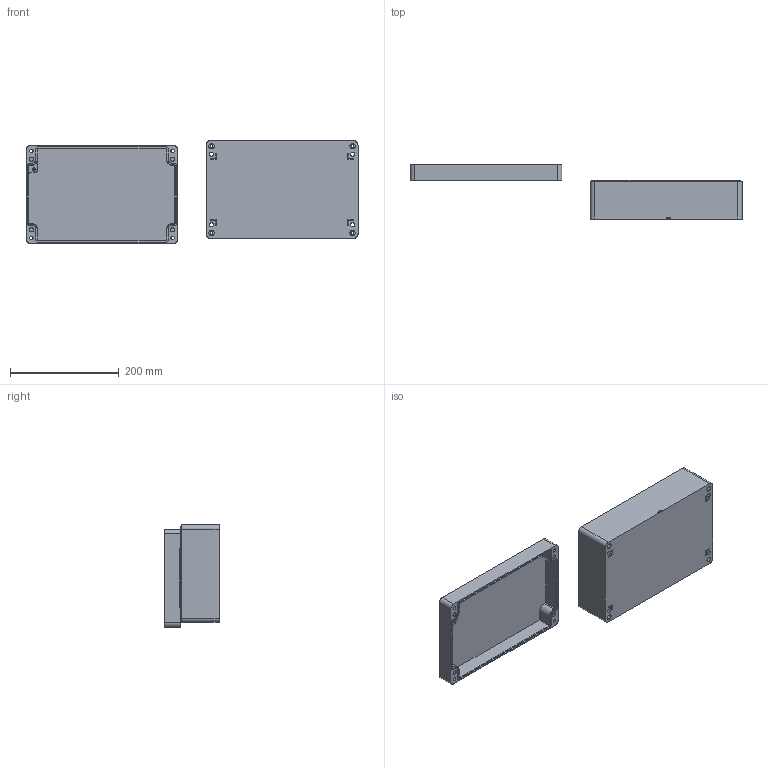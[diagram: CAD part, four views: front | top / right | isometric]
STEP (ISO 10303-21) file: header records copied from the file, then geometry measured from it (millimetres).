
FILE_DESCRIPTION (( 'STEP AP203' ), '1' );
FILE_NAME ('ZX-AL-182810_装配体.STEP', '2022-01-24T09:09:28', ( '微软用户' ), ( '微软中国' ), 'SwSTEP 2.0', 'SolidWorks 2020', '' );
FILE_SCHEMA (( 'CONFIG_CONTROL_DESIGN' ));
Length unit declared in the file: millimetre
Products named in the file (3): ZX-AL-182810_奻; ZX-AL-182810_蚾饜极; ZX-AL-182810_狟
Assembly tree (2 placements, depth 2):
  ZX-AL-182810_蚾饜极
    ZX-AL-182810_狟
    ZX-AL-182810_奻
Bounding box: 611.76 x 101.96 x 189.13 mm (x, y, z)
Volume: 841882.4 mm3; surface area: 400386.1 mm2
Topology: 2 solids, 2 shells, 665 faces, 1794 edges, 1169 vertices
Faces by surface type: plane 342, cylinder 164, bspline 123, cone 36
Entity records: 26603 total; most frequent: CARTESIAN_POINT 10270, ORIENTED_EDGE 3560, DIRECTION 2906, EDGE_CURVE 1780, VECTOR 1208, LINE 1208, VERTEX_POINT 1169, AXIS2_PLACEMENT_3D 849
